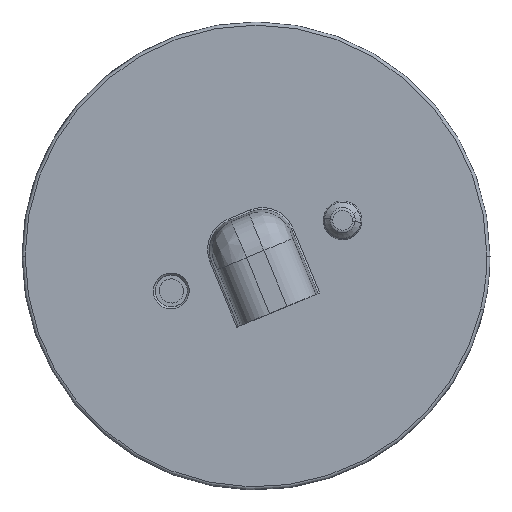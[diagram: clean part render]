
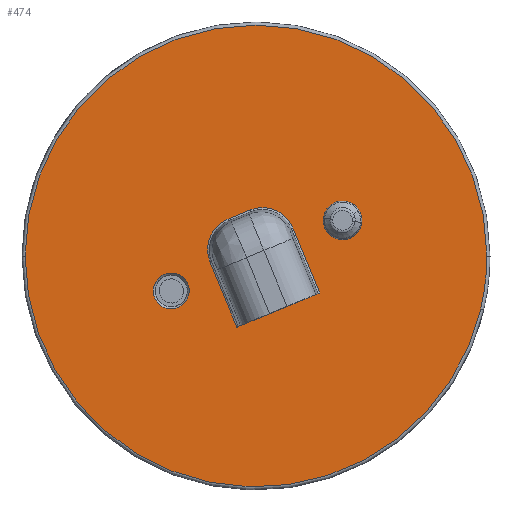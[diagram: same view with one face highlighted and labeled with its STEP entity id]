
A CAD part, top view. The second image highlights one B-rep face of the part: STEP entity #474.
In plain terms, the highlighted planar face has unit normal (0, 0, 1).
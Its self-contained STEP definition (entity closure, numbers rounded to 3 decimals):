
#194=AXIS2_PLACEMENT_3D('Circle Axis2P3D',#192,#193,$) ;
#342=AXIS2_PLACEMENT_3D('Plane Axis2P3D',#339,#340,#341) ;
#346=AXIS2_PLACEMENT_3D('Circle Axis2P3D',#344,#345,$) ;
#355=AXIS2_PLACEMENT_3D('Circle Axis2P3D',#353,#354,$) ;
#362=AXIS2_PLACEMENT_3D('Circle Axis2P3D',#360,#361,$) ;
#376=AXIS2_PLACEMENT_3D('Circle Axis2P3D',#374,#375,$) ;
#385=AXIS2_PLACEMENT_3D('Circle Axis2P3D',#383,#384,$) ;
#392=AXIS2_PLACEMENT_3D('Circle Axis2P3D',#390,#391,$) ;
#182=CARTESIAN_POINT('Vertex',(1052.434,-527.693,322.895)) ;
#189=CARTESIAN_POINT('Vertex',(1042.593,-526.616,322.895)) ;
#192=CARTESIAN_POINT('Axis2P3D Location',(1047.513,-527.154,322.895)) ;
#316=CARTESIAN_POINT('Control Point',(1042.593,-526.616,322.895)) ;
#317=CARTESIAN_POINT('Control Point',(1042.677,-525.843,322.895)) ;
#318=CARTESIAN_POINT('Control Point',(1042.914,-525.086,322.895)) ;
#319=CARTESIAN_POINT('Control Point',(1043.298,-524.387,322.895)) ;
#320=CARTESIAN_POINT('Control Point',(1044.319,-523.175,322.895)) ;
#321=CARTESIAN_POINT('Control Point',(1045.723,-522.44,322.895)) ;
#322=CARTESIAN_POINT('Control Point',(1046.49,-522.216,322.895)) ;
#323=CARTESIAN_POINT('Control Point',(1048.069,-522.082,322.895)) ;
#324=CARTESIAN_POINT('Control Point',(1049.581,-522.555,322.895)) ;
#325=CARTESIAN_POINT('Control Point',(1050.281,-522.939,322.895)) ;
#326=CARTESIAN_POINT('Control Point',(1051.493,-523.961,322.895)) ;
#327=CARTESIAN_POINT('Control Point',(1052.228,-525.364,322.895)) ;
#328=CARTESIAN_POINT('Control Point',(1052.451,-526.131,322.895)) ;
#329=CARTESIAN_POINT('Control Point',(1052.518,-526.92,322.895)) ;
#330=CARTESIAN_POINT('Control Point',(1052.434,-527.693,322.895)) ;
#339=CARTESIAN_POINT('Axis2P3D Location',(1025.324,-536.3,322.895)) ;
#344=CARTESIAN_POINT('Axis2P3D Location',(1025.324,-536.3,322.895)) ;
#348=CARTESIAN_POINT('Vertex',(1084.524,-536.3,322.895)) ;
#350=CARTESIAN_POINT('Vertex',(966.124,-536.3,322.895)) ;
#353=CARTESIAN_POINT('Axis2P3D Location',(1025.324,-536.3,322.895)) ;
#357=CARTESIAN_POINT('Vertex',(1082.942,-549.893,322.895)) ;
#360=CARTESIAN_POINT('Axis2P3D Location',(1025.324,-536.3,322.895)) ;
#374=CARTESIAN_POINT('Axis2P3D Location',(1003.597,-545.255,322.895)) ;
#378=CARTESIAN_POINT('Vertex',(999.024,-544.754,322.895)) ;
#380=CARTESIAN_POINT('Vertex',(1008.17,-545.755,322.895)) ;
#383=CARTESIAN_POINT('Axis2P3D Location',(1003.597,-545.255,322.895)) ;
#387=CARTESIAN_POINT('Vertex',(999.561,-543.047,322.895)) ;
#390=CARTESIAN_POINT('Axis2P3D Location',(1003.597,-545.255,322.895)) ;
#401=CARTESIAN_POINT('Control Point',(1023.724,-524.525,322.895)) ;
#402=CARTESIAN_POINT('Control Point',(1024.516,-524.198,322.895)) ;
#403=CARTESIAN_POINT('Control Point',(1025.349,-523.971,322.895)) ;
#404=CARTESIAN_POINT('Control Point',(1026.207,-523.851,322.895)) ;
#405=CARTESIAN_POINT('Control Point',(1027.933,-523.83,322.895)) ;
#406=CARTESIAN_POINT('Control Point',(1029.61,-524.238,322.895)) ;
#407=CARTESIAN_POINT('Control Point',(1030.418,-524.547,322.895)) ;
#408=CARTESIAN_POINT('Control Point',(1031.939,-525.363,322.895)) ;
#409=CARTESIAN_POINT('Control Point',(1033.209,-526.531,322.895)) ;
#410=CARTESIAN_POINT('Control Point',(1033.767,-527.193,322.895)) ;
#411=CARTESIAN_POINT('Control Point',(1034.289,-528.001,322.895)) ;
#412=CARTESIAN_POINT('Control Point',(1034.691,-528.867,322.895)) ;
#413=CARTESIAN_POINT('Control Point',(1034.731,-528.957,322.895)) ;
#414=CARTESIAN_POINT('Control Point',(1034.769,-529.047,322.895)) ;
#415=CARTESIAN_POINT('Control Point',(1034.807,-529.138,322.895)) ;
#416=CARTESIAN_POINT('Vertex',(1034.807,-529.138,322.895)) ;
#418=CARTESIAN_POINT('Vertex',(1023.724,-524.525,322.895)) ;
#421=CARTESIAN_POINT('Line Origine',(1038.238,-537.463,322.895)) ;
#425=CARTESIAN_POINT('Vertex',(1041.669,-545.787,322.895)) ;
#428=CARTESIAN_POINT('Line Origine',(1031.04,-550.168,322.895)) ;
#432=CARTESIAN_POINT('Vertex',(1020.411,-554.549,322.895)) ;
#435=CARTESIAN_POINT('Line Origine',(1016.98,-546.224,322.895)) ;
#439=CARTESIAN_POINT('Vertex',(1013.549,-537.9,322.895)) ;
#443=CARTESIAN_POINT('Control Point',(1013.549,-537.9,322.895)) ;
#444=CARTESIAN_POINT('Control Point',(1013.222,-537.108,322.895)) ;
#445=CARTESIAN_POINT('Control Point',(1012.996,-536.275,322.895)) ;
#446=CARTESIAN_POINT('Control Point',(1012.875,-535.417,322.895)) ;
#447=CARTESIAN_POINT('Control Point',(1012.854,-533.691,322.895)) ;
#448=CARTESIAN_POINT('Control Point',(1013.262,-532.014,322.895)) ;
#449=CARTESIAN_POINT('Control Point',(1013.571,-531.206,322.895)) ;
#450=CARTESIAN_POINT('Control Point',(1014.387,-529.685,322.895)) ;
#451=CARTESIAN_POINT('Control Point',(1015.556,-528.415,322.895)) ;
#452=CARTESIAN_POINT('Control Point',(1016.218,-527.857,322.895)) ;
#453=CARTESIAN_POINT('Control Point',(1017.026,-527.335,322.895)) ;
#454=CARTESIAN_POINT('Control Point',(1017.892,-526.933,322.895)) ;
#455=CARTESIAN_POINT('Control Point',(1017.981,-526.893,322.895)) ;
#456=CARTESIAN_POINT('Control Point',(1018.071,-526.854,322.895)) ;
#457=CARTESIAN_POINT('Control Point',(1018.162,-526.817,322.895)) ;
#458=CARTESIAN_POINT('Vertex',(1018.162,-526.817,322.895)) ;
#461=CARTESIAN_POINT('Line Origine',(1020.943,-525.671,322.895)) ;
#193=DIRECTION('Axis2P3D Direction',(0.,0.,-1.)) ;
#340=DIRECTION('Axis2P3D Direction',(0.,0.,1.)) ;
#341=DIRECTION('Axis2P3D XDirection',(1.,0.,0.)) ;
#345=DIRECTION('Axis2P3D Direction',(0.,0.,1.)) ;
#354=DIRECTION('Axis2P3D Direction',(0.,0.,1.)) ;
#361=DIRECTION('Axis2P3D Direction',(0.,0.,1.)) ;
#375=DIRECTION('Axis2P3D Direction',(0.,0.,1.)) ;
#384=DIRECTION('Axis2P3D Direction',(0.,0.,1.)) ;
#391=DIRECTION('Axis2P3D Direction',(0.,0.,1.)) ;
#422=DIRECTION('Vector Direction',(-0.381,0.925,0.)) ;
#429=DIRECTION('Vector Direction',(0.925,0.381,0.)) ;
#436=DIRECTION('Vector Direction',(-0.381,0.925,0.)) ;
#462=DIRECTION('Vector Direction',(-0.925,-0.381,0.)) ;
#423=VECTOR('Line Direction',#422,1.) ;
#430=VECTOR('Line Direction',#429,1.) ;
#437=VECTOR('Line Direction',#436,1.) ;
#463=VECTOR('Line Direction',#462,1.) ;
#366=ORIENTED_EDGE('',*,*,#352,.T.) ;
#367=ORIENTED_EDGE('',*,*,#359,.T.) ;
#368=ORIENTED_EDGE('',*,*,#364,.T.) ;
#371=ORIENTED_EDGE('',*,*,#196,.F.) ;
#372=ORIENTED_EDGE('',*,*,#331,.F.) ;
#396=ORIENTED_EDGE('',*,*,#382,.F.) ;
#397=ORIENTED_EDGE('',*,*,#389,.F.) ;
#398=ORIENTED_EDGE('',*,*,#394,.F.) ;
#467=ORIENTED_EDGE('',*,*,#420,.F.) ;
#468=ORIENTED_EDGE('',*,*,#427,.F.) ;
#469=ORIENTED_EDGE('',*,*,#434,.T.) ;
#470=ORIENTED_EDGE('',*,*,#441,.F.) ;
#471=ORIENTED_EDGE('',*,*,#460,.F.) ;
#472=ORIENTED_EDGE('',*,*,#465,.F.) ;
#373=FACE_BOUND('',#370,.T.) ;
#399=FACE_BOUND('',#395,.T.) ;
#473=FACE_BOUND('',#466,.T.) ;
#474=ADVANCED_FACE('2020.1203',(#369,#373,#399,#473),#343,.T.) ;
#315=B_SPLINE_CURVE_WITH_KNOTS('',5,(#316,#317,#318,#319,#320,#321,#322,#323,#324,#325,#326,#327,#328,#329,#330),.UNSPECIFIED.,.F.,.U.,(6,3,3,3,6),(-7.775,-3.888,0.,3.888,7.775),.UNSPECIFIED.) ;
#400=B_SPLINE_CURVE_WITH_KNOTS('',5,(#401,#402,#403,#404,#405,#406,#407,#408,#409,#410,#411,#412,#413,#414,#415),.UNSPECIFIED.,.F.,.U.,(6,3,3,3,6),(0.,6.068,12.131,18.198,18.893),.UNSPECIFIED.) ;
#442=B_SPLINE_CURVE_WITH_KNOTS('',5,(#443,#444,#445,#446,#447,#448,#449,#450,#451,#452,#453,#454,#455,#456,#457),.UNSPECIFIED.,.F.,.U.,(6,3,3,3,6),(0.,6.068,12.131,18.198,18.893),.UNSPECIFIED.) ;
#195=CIRCLE('generated circle',#194,4.95) ;
#347=CIRCLE('generated circle',#346,59.2) ;
#356=CIRCLE('generated circle',#355,59.2) ;
#363=CIRCLE('generated circle',#362,59.2) ;
#377=CIRCLE('generated circle',#376,4.6) ;
#386=CIRCLE('generated circle',#385,4.6) ;
#393=CIRCLE('generated circle',#392,4.6) ;
#196=EDGE_CURVE('',#190,#183,#195,.F.) ;
#331=EDGE_CURVE('',#183,#190,#315,.F.) ;
#352=EDGE_CURVE('',#349,#351,#347,.T.) ;
#359=EDGE_CURVE('',#351,#358,#356,.T.) ;
#364=EDGE_CURVE('',#358,#349,#363,.T.) ;
#382=EDGE_CURVE('',#379,#381,#377,.T.) ;
#389=EDGE_CURVE('',#388,#379,#386,.T.) ;
#394=EDGE_CURVE('',#381,#388,#393,.T.) ;
#420=EDGE_CURVE('',#417,#419,#400,.F.) ;
#427=EDGE_CURVE('',#426,#417,#424,.T.) ;
#434=EDGE_CURVE('',#426,#433,#431,.F.) ;
#441=EDGE_CURVE('',#440,#433,#438,.F.) ;
#460=EDGE_CURVE('',#459,#440,#442,.F.) ;
#465=EDGE_CURVE('',#419,#459,#464,.T.) ;
#365=EDGE_LOOP('',(#366,#367,#368)) ;
#370=EDGE_LOOP('',(#371,#372)) ;
#395=EDGE_LOOP('',(#396,#397,#398)) ;
#466=EDGE_LOOP('',(#467,#468,#469,#470,#471,#472)) ;
#369=FACE_OUTER_BOUND('',#365,.T.) ;
#424=LINE('Line',#421,#423) ;
#431=LINE('Line',#428,#430) ;
#438=LINE('Line',#435,#437) ;
#464=LINE('Line',#461,#463) ;
#343=PLANE('Plane',#342) ;
#183=VERTEX_POINT('',#182) ;
#190=VERTEX_POINT('',#189) ;
#349=VERTEX_POINT('',#348) ;
#351=VERTEX_POINT('',#350) ;
#358=VERTEX_POINT('',#357) ;
#379=VERTEX_POINT('',#378) ;
#381=VERTEX_POINT('',#380) ;
#388=VERTEX_POINT('',#387) ;
#417=VERTEX_POINT('',#416) ;
#419=VERTEX_POINT('',#418) ;
#426=VERTEX_POINT('',#425) ;
#433=VERTEX_POINT('',#432) ;
#440=VERTEX_POINT('',#439) ;
#459=VERTEX_POINT('',#458) ;
